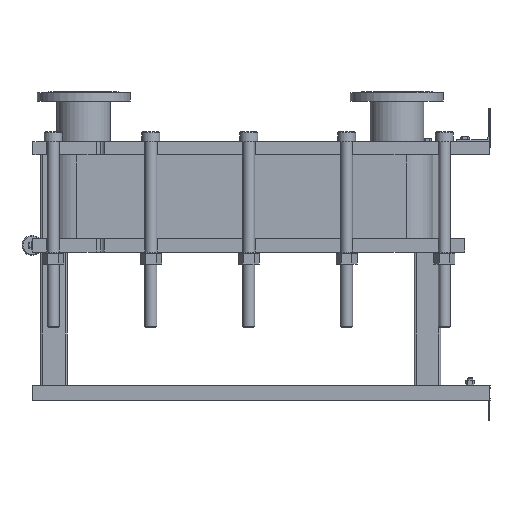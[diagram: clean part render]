
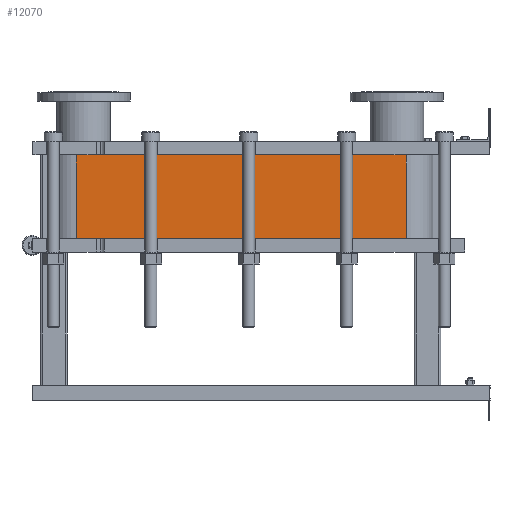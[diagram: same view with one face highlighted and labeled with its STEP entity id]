
A CAD part, left-side view. The second image highlights one B-rep face of the part: STEP entity #12070.
In plain terms, the highlighted planar face has unit normal (-1, 0, 0).
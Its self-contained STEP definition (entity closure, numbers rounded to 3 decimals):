
#1064=LINE('',#21140,#2164);
#1065=LINE('',#21144,#2165);
#1066=LINE('',#21146,#2166);
#1067=LINE('',#21147,#2167);
#2164=VECTOR('',#15790,10.);
#2165=VECTOR('',#15795,10.);
#2166=VECTOR('',#15796,10.);
#2167=VECTOR('',#15797,10.);
#3304=FACE_OUTER_BOUND('',#4091,.T.);
#4091=EDGE_LOOP('',(#9793,#9794,#9795,#9796));
#5677=VERTEX_POINT('',#21137);
#5678=VERTEX_POINT('',#21139);
#5679=VERTEX_POINT('',#21143);
#5680=VERTEX_POINT('',#21145);
#7118=EDGE_CURVE('',#5678,#5677,#1064,.T.);
#7120=EDGE_CURVE('',#5677,#5679,#1065,.T.);
#7121=EDGE_CURVE('',#5680,#5679,#1066,.T.);
#7122=EDGE_CURVE('',#5680,#5678,#1067,.T.);
#9793=ORIENTED_EDGE('',*,*,#7120,.T.);
#9794=ORIENTED_EDGE('',*,*,#7121,.F.);
#9795=ORIENTED_EDGE('',*,*,#7122,.T.);
#9796=ORIENTED_EDGE('',*,*,#7118,.T.);
#11441=PLANE('',#13191);
#12070=ADVANCED_FACE('',(#3304),#11441,.T.);
#13191=AXIS2_PLACEMENT_3D('',#21142,#15793,#15794);
#15790=DIRECTION('',(0.,0.,-1.));
#15793=DIRECTION('center_axis',(-1.,0.,0.));
#15794=DIRECTION('ref_axis',(0.,1.,0.));
#15795=DIRECTION('',(0.,-1.,0.));
#15796=DIRECTION('',(0.,0.,-1.));
#15797=DIRECTION('',(0.,1.,0.));
#21137=CARTESIAN_POINT('',(-248.152,1243.818,-251.85));
#21139=CARTESIAN_POINT('',(-248.152,1243.818,0.));
#21140=CARTESIAN_POINT('',(-248.152,1243.818,0.));
#21142=CARTESIAN_POINT('Origin',(-248.152,251.818,0.));
#21143=CARTESIAN_POINT('',(-248.152,251.818,-251.85));
#21144=CARTESIAN_POINT('',(-248.152,499.818,-251.85));
#21145=CARTESIAN_POINT('',(-248.152,251.818,0.));
#21146=CARTESIAN_POINT('',(-248.152,251.818,0.));
#21147=CARTESIAN_POINT('',(-248.152,251.818,0.));
